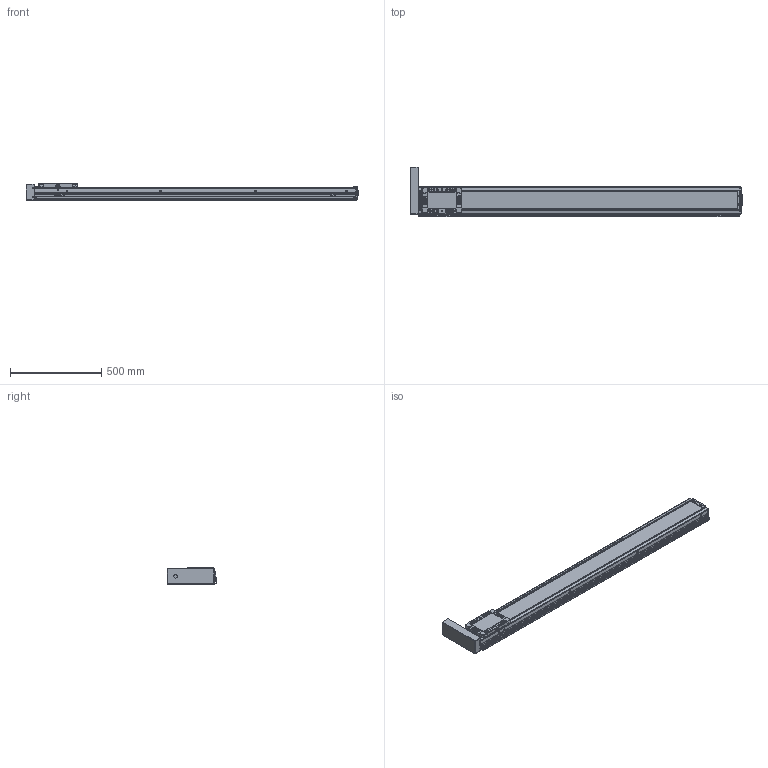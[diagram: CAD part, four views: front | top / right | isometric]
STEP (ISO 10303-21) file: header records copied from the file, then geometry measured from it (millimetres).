
FILE_DESCRIPTION(('STEP AP214'),'1');
FILE_NAME('Z:/Web/3D/SAN150/2013.04 (STP.)/SAN150ㅁㅁ-1500PL+3SR.stp','2013-05-07T08:23:02',(' '),(' '),'Spatial InterOp 3D',' ',' ');
FILE_SCHEMA(('automotive_design'));
Length unit declared in the file: millimetre
Products named in the file (62): M3.0 x 6.0; SRL-16x17-360L; SGD-SAN150; EE-SX674; SBK-SX674-352; 스크루 : Round - M3.0 x 6.0; BHCS M4.0 x 10.0; SLBL-SAN150; SLCV-SAN150; FHCS M4.0 x 8.0; SFX-SAN150; RRCV-SAN150; FRBL-SAN150; Spacer; RN15; FRCV-SAN150; Screw 20; BASE-SAN150-000L ; SUS COVER; 스크루 : Round - M5.0 x 6.0; BHCS M3.0 x 6.0; P
Bounding box: 1820 x 273.36 x 90 mm (x, y, z)
Volume: 10211865.7 mm3; surface area: 1953835.5 mm2
Topology: 62 solids, 62 shells, 2930 faces, 7531 edges, 4812 vertices
Faces by surface type: plane 1456, cylinder 991, cone 362, sphere 88, bspline 21, torus 12
Entity records: 116534 total; most frequent: CARTESIAN_POINT 19117, DIRECTION 15976, ORIENTED_EDGE 14750, EDGE_CURVE 7375, AXIS2_PLACEMENT_3D 5762, VERTEX_POINT 4812, LINE 4452, VECTOR 4452
